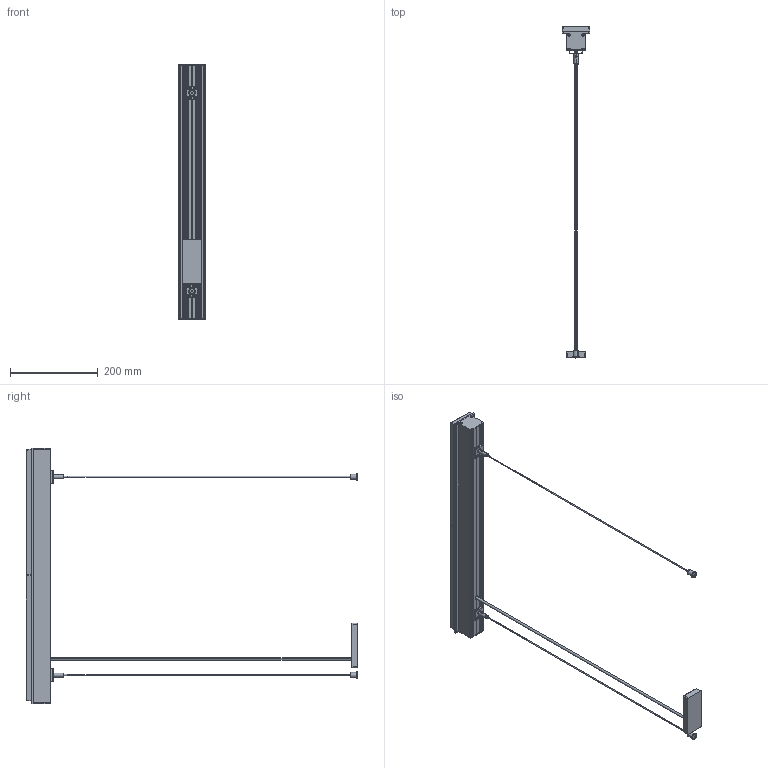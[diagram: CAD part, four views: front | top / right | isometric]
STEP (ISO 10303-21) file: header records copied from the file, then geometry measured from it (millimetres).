
FILE_DESCRIPTION (( 'STEP AP214' ), '1' );
FILE_NAME ('Pixel C 05.STEP', '2017-10-10T10:03:22', ( 'tecnica2' ), ( 'Microsoft' ), 'SwSTEP 2.0', 'SolidWorks 2016', '' );
FILE_SCHEMA (( 'AUTOMOTIVE_DESIGN' ));
Length unit declared in the file: millimetre
Products named in the file (8): Perfil LED-BIM_X2 (L:578); Pixel C 05; kit luz Pixel-BIM; kit colgante Pixel-BIM; TT 65 T 3X6; Tapa-BIM_definitiva; Perfil DRIVER-BIM_X2 (L:578mm); lente-BIM
Assembly tree (13 placements, depth 2):
  Pixel C 05
    Perfil LED-BIM_X2 (L:578)
    lente-BIM  x2
    Perfil DRIVER-BIM_X2 (L:578mm)
    Tapa-BIM_definitiva  x2
    TT 65 T 3X6  x4
    kit colgante Pixel-BIM  x2
    kit luz Pixel-BIM
Bounding box: 62 x 756.13 x 582 mm (x, y, z)
Volume: 1563221.4 mm3; surface area: 357923.1 mm2
Topology: 23 solids, 23 shells, 1027 faces, 2582 edges, 1592 vertices
Faces by surface type: plane 371, cylinder 332, bspline 212, cone 88, sphere 16, torus 8
Entity records: 19193 total; most frequent: CARTESIAN_POINT 4316, ORIENTED_EDGE 2422, DIRECTION 2237, EDGE_CURVE 1211, AXIS2_PLACEMENT_3D 796, VERTEX_POINT 774, VECTOR 645, LINE 645
